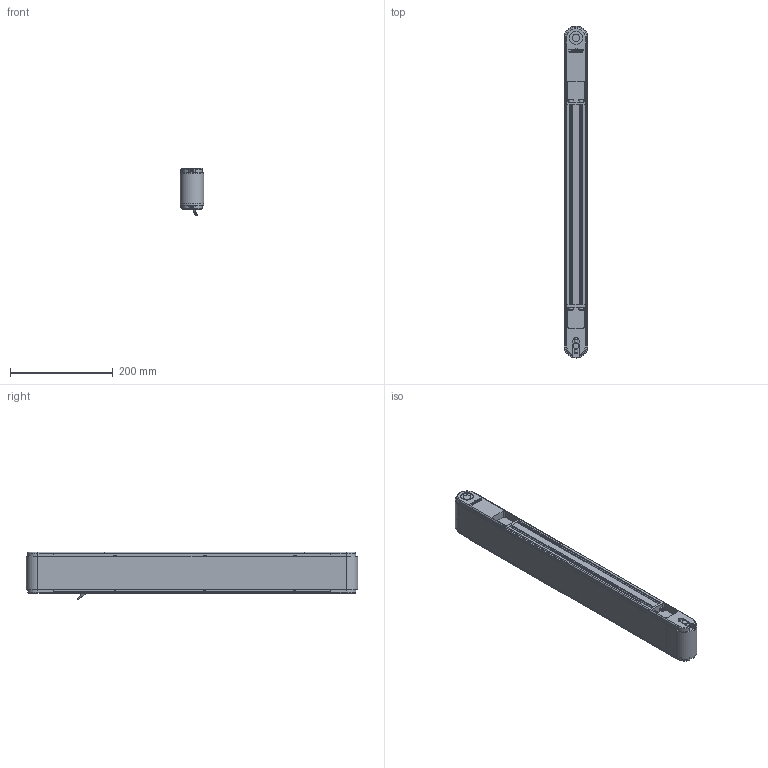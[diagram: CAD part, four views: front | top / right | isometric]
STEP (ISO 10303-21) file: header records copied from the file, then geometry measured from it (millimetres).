
FILE_DESCRIPTION(/* description */ (''),/* implementation_level */ '2;1');
FILE_NAME(/* name */ 'G:\DATEN\CAD\Förderband\Marketing\3D-Modelle (Standard)\FR-40-80\FR-40-80-600-K.stp',/* time_stamp */ '2019-05-08T08:16:21+02:00',/* author */ ('melanie.ochs'),/* organization */ (''),/* preprocessor_version */ 'ST-DEVELOPER v17',/* originating_system */ 'Autodesk Inventor 2019',/* authorisation */ '');
FILE_SCHEMA (('CONFIG_CONTROL_DESIGN'));
Length unit declared in the file: centimetre
Products named in the file (1): FR-40-80-600-K
Bounding box: 46.6 x 646.6 x 92.72 mm (x, y, z)
Volume: 1080649.7 mm3; surface area: 483654 mm2
Topology: 1 solids, 25 shells, 1023 faces, 2791 edges, 1862 vertices
Faces by surface type: plane 527, cylinder 281, bspline 122, cone 63, torus 30
Full cylindrical faces by diameter (mm): 1 x6, 4 x6, 4.3 x4, 4.64 x2, 4.917 x1, 5 x11, 5.5 x8, 6 x4, 6.773 x1, 8 x4, 8.3 x6, 8.5 x8, 8.773 x1, 10 x1, 11 x1, 12 x3, 15 x4, 20 x2, 25 x2, 28 x4
Entity records: 34909 total; most frequent: CARTESIAN_POINT 8294, ORIENTED_EDGE 5562, DIRECTION 5032, EDGE_CURVE 2781, VERTEX_POINT 1862, AXIS2_PLACEMENT_3D 1744, LINE 1544, VECTOR 1544
